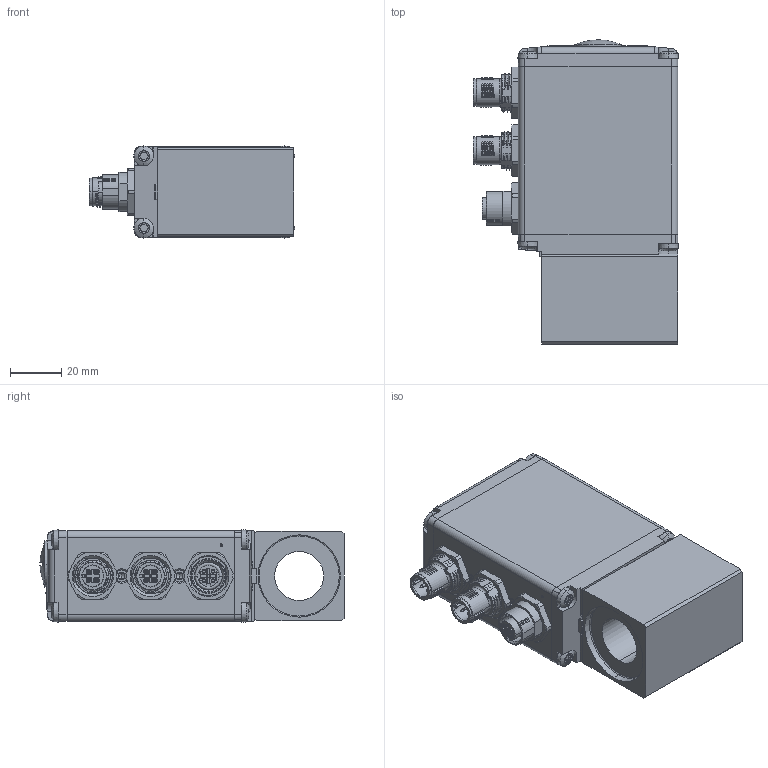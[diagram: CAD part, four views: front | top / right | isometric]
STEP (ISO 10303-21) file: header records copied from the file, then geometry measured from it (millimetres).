
FILE_DESCRIPTION (( 'STEP AP214' ), '1' );
FILE_NAME ('ME35_19x50-PI...CR.STEP', '2014-01-22T08:24:51', ( '' ), ( '' ), 'SwSTEP 2.0', 'SolidWorks 2012', '' );
FILE_SCHEMA (( 'AUTOMOTIVE_DESIGN' ));
Length unit declared in the file: millimetre
Products named in the file (1): ME35_19x50-PI...CR
Bounding box: 79.8 x 118.39 x 35.9 mm (x, y, z)
Volume: 214167.7 mm3; surface area: 59459.9 mm2
Topology: 26 solids, 26 shells, 3375 faces, 9014 edges, 5813 vertices
Faces by surface type: plane 1562, cylinder 1091, torus 264, cone 250, bspline 176, sphere 32
Entity records: 179379 total; most frequent: CARTESIAN_POINT 59541, ORIENTED_EDGE 17948, DIRECTION 16125, EDGE_CURVE 8974, VERTEX_POINT 5813, AXIS2_PLACEMENT_3D 5386, LINE 5353, VECTOR 5353
